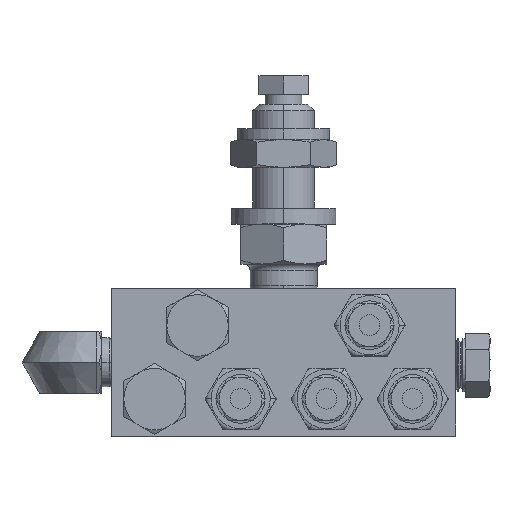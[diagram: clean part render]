
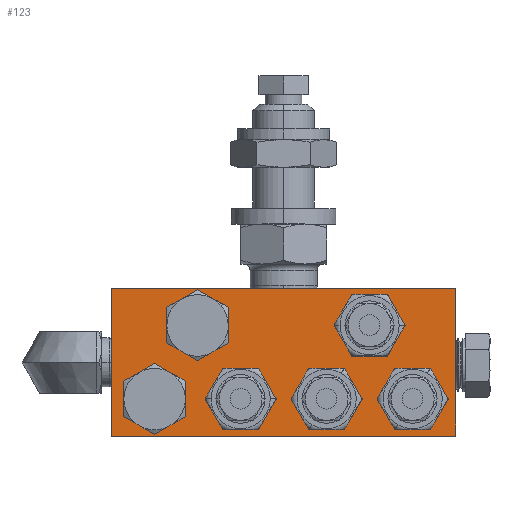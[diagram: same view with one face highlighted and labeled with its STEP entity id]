
A CAD part, top view. The second image highlights one B-rep face of the part: STEP entity #123.
In plain terms, the highlighted planar face has unit normal (0, 0, 1).
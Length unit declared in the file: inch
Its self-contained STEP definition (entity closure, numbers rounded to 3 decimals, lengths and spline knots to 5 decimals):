
#9=DIRECTION('',(0.,1.,0.));
#10=VECTOR('',#9,1.5);
#11=CARTESIAN_POINT('',(1.75,-0.75,0.5));
#12=LINE('',#11,#10);
#21=DIRECTION('',(-1.,0.,0.));
#22=VECTOR('',#21,3.5);
#23=CARTESIAN_POINT('',(1.75,0.75,0.5));
#24=LINE('',#23,#22);
#25=DIRECTION('',(-1.,0.,0.));
#26=VECTOR('',#25,3.5);
#27=CARTESIAN_POINT('',(1.75,-0.75,0.5));
#28=LINE('',#27,#26);
#41=DIRECTION('',(0.,1.,0.));
#42=VECTOR('',#41,1.5);
#43=CARTESIAN_POINT('',(-1.75,-0.75,0.5));
#44=LINE('',#43,#42);
#53=CARTESIAN_POINT('',(1.75,-0.75,0.5));
#54=VERTEX_POINT('',#53);
#55=CARTESIAN_POINT('',(1.75,0.75,0.5));
#56=VERTEX_POINT('',#55);
#61=CARTESIAN_POINT('',(-1.75,-0.75,0.5));
#62=VERTEX_POINT('',#61);
#63=CARTESIAN_POINT('',(-1.75,0.75,0.5));
#64=VERTEX_POINT('',#63);
#110=CARTESIAN_POINT('',(1.75,-0.75,0.5));
#111=DIRECTION('',(0.,0.,1.));
#112=DIRECTION('',(0.,1.,0.));
#113=AXIS2_PLACEMENT_3D('',#110,#111,#112);
#114=PLANE('',#113);
#115=ORIENTED_EDGE('',*,*,#74,.F.);
#117=ORIENTED_EDGE('',*,*,#116,.T.);
#119=ORIENTED_EDGE('',*,*,#118,.T.);
#120=ORIENTED_EDGE('',*,*,#102,.F.);
#121=EDGE_LOOP('',(#115,#117,#119,#120));
#122=FACE_OUTER_BOUND('',#121,.F.);
#123=ADVANCED_FACE('',(#122),#114,.T.);
#74=EDGE_CURVE('',#54,#56,#12,.T.);
#102=EDGE_CURVE('',#56,#64,#24,.T.);
#116=EDGE_CURVE('',#54,#62,#28,.T.);
#118=EDGE_CURVE('',#62,#64,#44,.T.);
